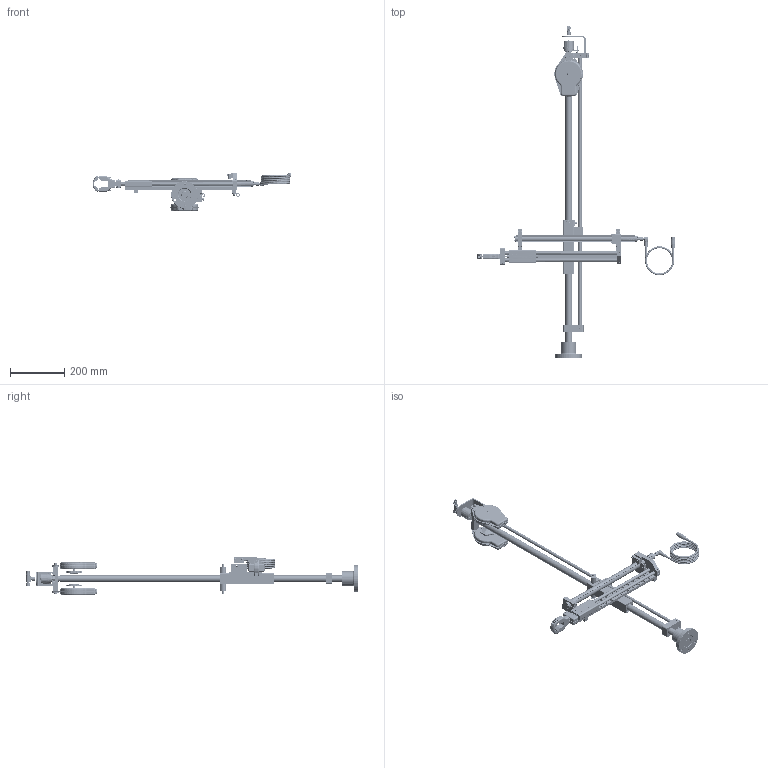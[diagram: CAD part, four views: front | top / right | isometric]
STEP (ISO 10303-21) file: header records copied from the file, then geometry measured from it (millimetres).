
FILE_DESCRIPTION((''),'2;1');
FILE_NAME('PRT0001','2017-08-28T',('greextsd'),(''),'CREO PARAMETRIC BY PTC INC, 2017020','CREO PARAMETRIC BY PTC INC, 2017020','');
FILE_SCHEMA(('AUTOMOTIVE_DESIGN { 1 0 10303 214 1 1 1 1 }'));
Products named in the file (1): PRT0001
Bounding box: 734.6 x 1226.4 x 143.6 mm (x, y, z)
Volume: 2223699.9 mm3; surface area: 710145.2 mm2
Topology: 637 solids, 699 shells, 4879 faces, 14910 edges, 9310 vertices
Faces by surface type: plane 1603, cylinder 1364, sphere 1162, cone 322, torus 303, extrusion 74, bspline 51
Entity records: 180175 total; most frequent: CARTESIAN_POINT 40890, DIRECTION 24756, ORIENTED_EDGE 24709, EDGE_CURVE 12496, AXIS2_PLACEMENT_3D 9724, VERTEX_POINT 9301, EDGE_LOOP 5567, VECTOR 5308
